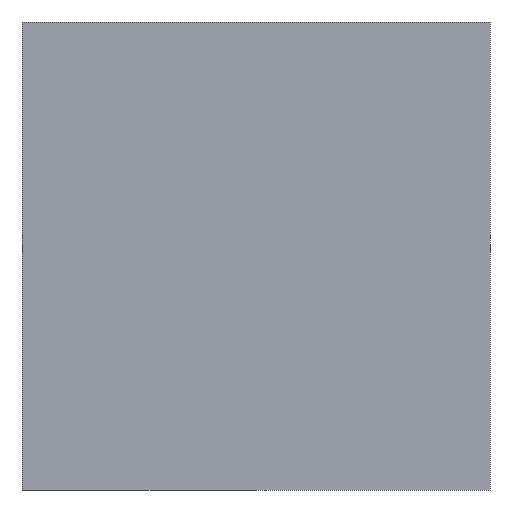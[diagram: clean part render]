
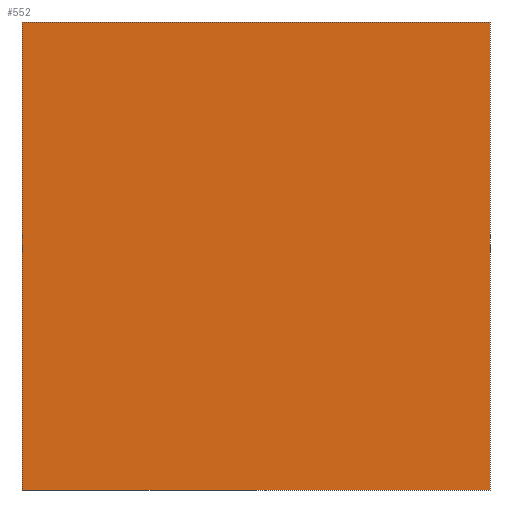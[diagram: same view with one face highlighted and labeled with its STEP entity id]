
A CAD part, left-side view. The second image highlights one B-rep face of the part: STEP entity #552.
In plain terms, the highlighted planar face has unit normal (-1, 0, 0).
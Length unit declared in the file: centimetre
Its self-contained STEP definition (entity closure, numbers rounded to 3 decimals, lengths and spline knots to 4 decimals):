
#1 = CARTESIAN_POINT ( 'NONE',  ( 0., 1000., 0. ) ) ;
#6 = CARTESIAN_POINT ( 'NONE',  ( 0., 0., 1000. ) ) ;
#14 = ORIENTED_EDGE ( 'NONE', *, *, #470, .T. ) ;
#23 = ORIENTED_EDGE ( 'NONE', *, *, #328, .T. ) ;
#59 = VERTEX_POINT ( 'NONE', #1 ) ;
#112 = VERTEX_POINT ( 'NONE', #184 ) ;
#154 = EDGE_CURVE ( 'NONE', #453, #112, #399, .T. ) ;
#159 = CARTESIAN_POINT ( 'NONE',  ( 0., 1000., 0. ) ) ;
#160 = CARTESIAN_POINT ( 'NONE',  ( 0., 1000., 1000. ) ) ;
#171 = CARTESIAN_POINT ( 'NONE',  ( 0., 1000., 1000. ) ) ;
#184 = CARTESIAN_POINT ( 'NONE',  ( 0., 0., 0. ) ) ;
#217 = ORIENTED_EDGE ( 'NONE', *, *, #359, .F. ) ;
#246 = VECTOR ( 'NONE', #336, 100. ) ;
#255 = CARTESIAN_POINT ( 'NONE',  ( 0., 1000., 1000. ) ) ;
#256 = VECTOR ( 'NONE', #365, 100. ) ;
#295 = DIRECTION ( 'NONE',  ( 0., -1., 0. ) ) ;
#328 = EDGE_CURVE ( 'NONE', #383, #59, #566, .T. ) ;
#336 = DIRECTION ( 'NONE',  ( 0., 0., -1. ) ) ;
#359 = EDGE_CURVE ( 'NONE', #383, #453, #379, .T. ) ;
#365 = DIRECTION ( 'NONE',  ( 0., -1., 0. ) ) ;
#377 = ORIENTED_EDGE ( 'NONE', *, *, #154, .F. ) ;
#379 = LINE ( 'NONE', #521, #405 ) ;
#383 = VERTEX_POINT ( 'NONE', #255 ) ;
#389 = DIRECTION ( 'NONE',  ( 0., 0., -1. ) ) ;
#395 = VECTOR ( 'NONE', #526, 100. ) ;
#399 = LINE ( 'NONE', #6, #246 ) ;
#405 = VECTOR ( 'NONE', #295, 100. ) ;
#413 = EDGE_LOOP ( 'NONE', ( #14, #377, #217, #23 ) ) ;
#416 = CARTESIAN_POINT ( 'NONE',  ( 0., 0., 1000. ) ) ;
#421 = DIRECTION ( 'NONE',  ( 1., 0., 0. ) ) ;
#431 = AXIS2_PLACEMENT_3D ( 'NONE', #160, #421, #389 ) ;
#453 = VERTEX_POINT ( 'NONE', #416 ) ;
#468 = FACE_OUTER_BOUND ( 'NONE', #413, .T. ) ;
#470 = EDGE_CURVE ( 'NONE', #59, #112, #553, .T. ) ;
#481 = PLANE ( 'NONE',  #431 ) ;
#521 = CARTESIAN_POINT ( 'NONE',  ( 0., 1000., 1000. ) ) ;
#526 = DIRECTION ( 'NONE',  ( 0., 0., -1. ) ) ;
#552 = ADVANCED_FACE ( 'NONE', ( #468 ), #481, .F. ) ;
#553 = LINE ( 'NONE', #159, #256 ) ;
#566 = LINE ( 'NONE', #171, #395 ) ;
